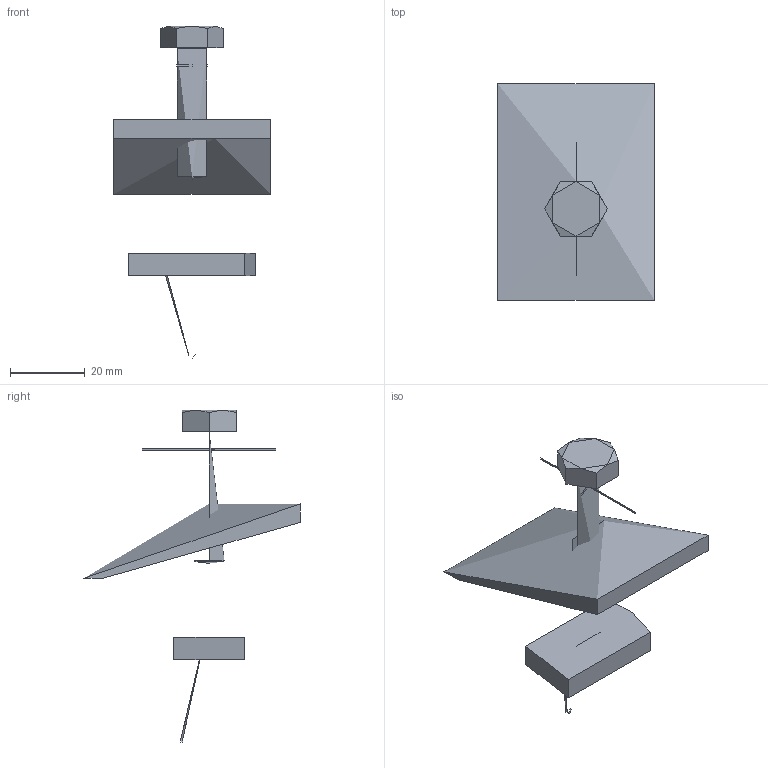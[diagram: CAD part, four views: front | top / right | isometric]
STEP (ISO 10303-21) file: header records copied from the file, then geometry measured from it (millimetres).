
FILE_DESCRIPTION(/* description */ (''),/* implementation_level */ '2;1');
FILE_NAME(/* name */ 'PIM',/* time_stamp */ '2012-11-29T22:51:17+01:00',/* author */ (''),/* organization */ (''),/* preprocessor_version */ 'ST-DEVELOPER v10',/* originating_system */ '',/* authorisation */ '');
FILE_SCHEMA (('AUTOMOTIVE_DESIGN_CC2'));
Length unit declared in the file: millimetre
Products named in the file (1): 1
Bounding box: 42 x 58 x 88.91 mm (x, y, z)
Surface area: 13299.8 mm2 (no closed solid volume)
Topology: 0 solids, 45 shells, 57 faces, 208 edges, 182 vertices
Faces by surface type: bspline 34, plane 23
Entity records: 9360 total; most frequent: CARTESIAN_POINT 7872, ORIENTED_EDGE 225, EDGE_CURVE 201, VERTEX_POINT 178, B_SPLINE_CURVE_WITH_KNOTS 124, EDGE_LOOP 64, ADVANCED_FACE 57, FACE_OUTER_BOUND 57
